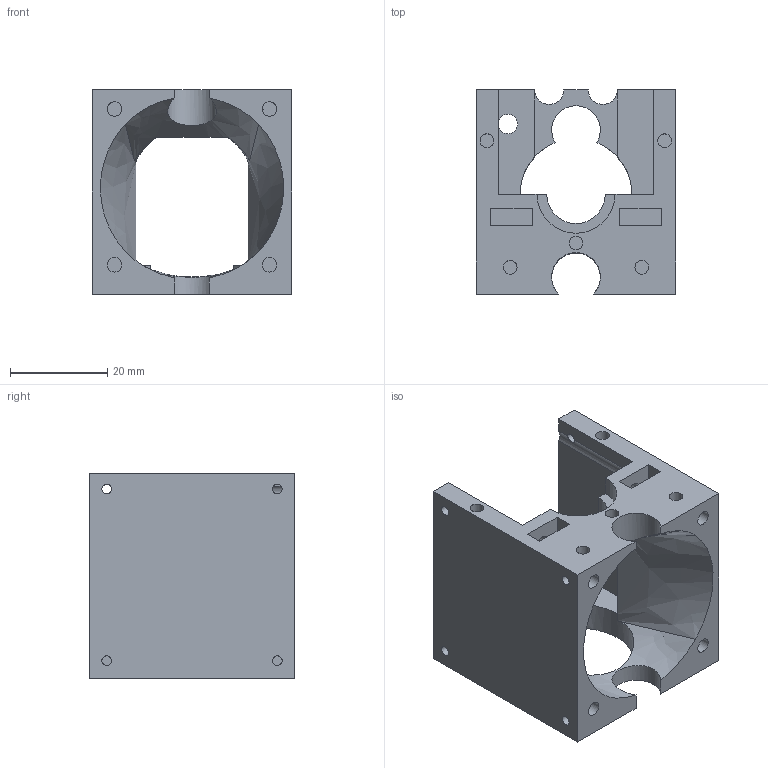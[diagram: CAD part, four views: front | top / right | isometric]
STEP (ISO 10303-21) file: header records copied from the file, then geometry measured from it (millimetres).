
FILE_DESCRIPTION(/* description */ (''),/* implementation_level */ '2;1');
FILE_NAME(/* name */ 'F:/3d-printing/_sr/# Mods/E3D Hotend Mount v41.step',/* time_stamp */ '2021-08-11T10:39:50+02:00',/* author */ (''),/* organization */ (''),/* preprocessor_version */ 'ST-DEVELOPER v18.1',/* originating_system */ 'Autodesk Translation Framework v10.9.0.1377',/* authorisation */ '');
FILE_SCHEMA (('AUTOMOTIVE_DESIGN { 1 0 10303 214 3 1 1 }'));
Length unit declared in the file: millimetre
Products named in the file (1): E3D Hotend Mount
Bounding box: 41 x 42 x 42 mm (x, y, z)
Volume: 25027.2 mm3; surface area: 13164.1 mm2
Topology: 1 solids, 1 shells, 111 faces, 278 edges, 180 vertices
Faces by surface type: plane 56, cylinder 43, bspline 10, cone 2
Full cylindrical faces by diameter (mm): 2 x8, 2.8 x11, 3 x8, 4 x2
Entity records: 3896 total; most frequent: CARTESIAN_POINT 1225, ORIENTED_EDGE 548, DIRECTION 526, EDGE_CURVE 274, AXIS2_PLACEMENT_3D 189, VERTEX_POINT 178, LINE 148, VECTOR 148
